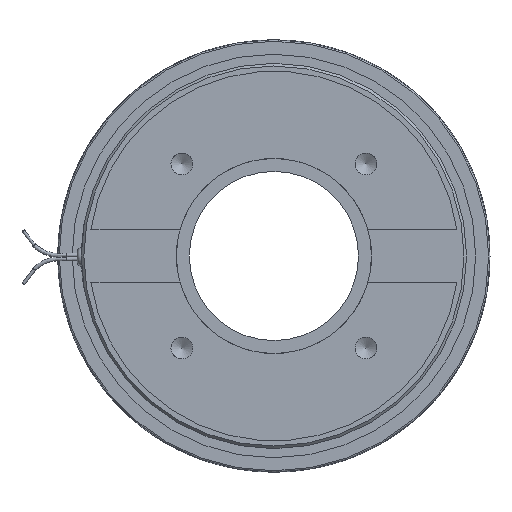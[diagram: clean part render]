
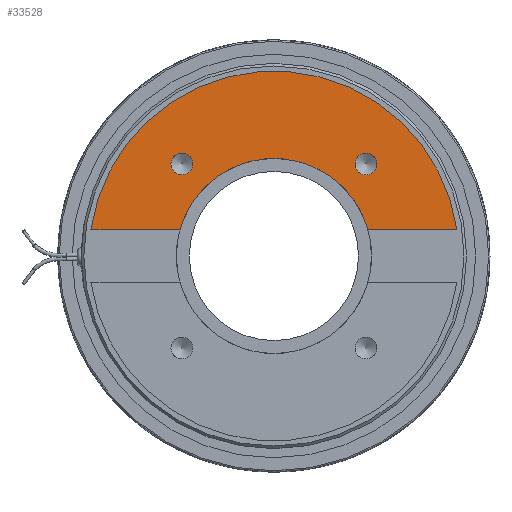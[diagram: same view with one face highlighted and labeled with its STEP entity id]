
A CAD part, left-side view. The second image highlights one B-rep face of the part: STEP entity #33528.
In plain terms, the highlighted planar face has unit normal (-1, 0, 0).
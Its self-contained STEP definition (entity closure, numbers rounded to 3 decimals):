
#2133=FACE_BOUND('',#6443,.T.);
#2134=FACE_BOUND('',#6444,.T.);
#3065=PLANE('',#36727);
#4697=FACE_OUTER_BOUND('',#6442,.T.);
#6442=EDGE_LOOP('',(#25449,#25450,#25451,#25452));
#6443=EDGE_LOOP('',(#25453));
#6444=EDGE_LOOP('',(#25454));
#7835=CIRCLE('',#36721,37.5);
#7837=CIRCLE('',#36724,71.);
#7839=CIRCLE('',#36728,4.188);
#7840=CIRCLE('',#36729,4.188);
#9321=LINE('',#55989,#11227);
#9323=LINE('',#55995,#11229);
#11227=VECTOR('',#44605,10.);
#11229=VECTOR('',#44609,10.);
#13820=VERTEX_POINT('',#55983);
#13822=VERTEX_POINT('',#55987);
#13823=VERTEX_POINT('',#55991);
#13825=VERTEX_POINT('',#55994);
#13830=VERTEX_POINT('',#56019);
#13831=VERTEX_POINT('',#56021);
#17988=EDGE_CURVE('',#13820,#13822,#9321,.T.);
#17990=EDGE_CURVE('',#13825,#13823,#9323,.T.);
#18001=EDGE_CURVE('',#13822,#13825,#7835,.T.);
#18003=EDGE_CURVE('',#13820,#13823,#7837,.T.);
#18005=EDGE_CURVE('',#13830,#13830,#7839,.T.);
#18006=EDGE_CURVE('',#13831,#13831,#7840,.T.);
#25449=ORIENTED_EDGE('',*,*,#17990,.T.);
#25450=ORIENTED_EDGE('',*,*,#18003,.F.);
#25451=ORIENTED_EDGE('',*,*,#17988,.T.);
#25452=ORIENTED_EDGE('',*,*,#18001,.T.);
#25453=ORIENTED_EDGE('',*,*,#18005,.T.);
#25454=ORIENTED_EDGE('',*,*,#18006,.T.);
#33528=ADVANCED_FACE('',(#4697,#2133,#2134),#3065,.T.);
#36721=AXIS2_PLACEMENT_3D('',#56012,#44631,#44632);
#36724=AXIS2_PLACEMENT_3D('',#56015,#44637,#44638);
#36727=AXIS2_PLACEMENT_3D('',#56018,#44643,#44644);
#36728=AXIS2_PLACEMENT_3D('',#56020,#44645,#44646);
#36729=AXIS2_PLACEMENT_3D('',#56022,#44647,#44648);
#44605=DIRECTION('',(0.,-1.,0.));
#44609=DIRECTION('',(0.,-1.,0.));
#44631=DIRECTION('center_axis',(1.,0.,0.));
#44632=DIRECTION('ref_axis',(0.,1.,0.));
#44637=DIRECTION('center_axis',(1.,0.,0.));
#44638=DIRECTION('ref_axis',(0.,1.,0.));
#44643=DIRECTION('center_axis',(-1.,0.,0.));
#44644=DIRECTION('ref_axis',(0.,0.,1.));
#44645=DIRECTION('center_axis',(1.,0.,0.));
#44646=DIRECTION('ref_axis',(0.,0.,1.));
#44647=DIRECTION('center_axis',(1.,0.,0.));
#44648=DIRECTION('ref_axis',(0.,0.,1.));
#55983=CARTESIAN_POINT('',(-23.5,70.292,10.));
#55987=CARTESIAN_POINT('',(-23.5,36.142,10.));
#55989=CARTESIAN_POINT('',(-23.5,72.146,10.));
#55991=CARTESIAN_POINT('',(-23.5,-70.292,10.));
#55994=CARTESIAN_POINT('',(-23.5,-36.142,10.));
#55995=CARTESIAN_POINT('',(-23.5,72.146,10.));
#56012=CARTESIAN_POINT('Origin',(-23.5,0.,0.));
#56015=CARTESIAN_POINT('Origin',(-23.5,0.,0.));
#56018=CARTESIAN_POINT('Origin',(-23.5,54.25,0.));
#56019=CARTESIAN_POINT('',(-23.5,35.355,31.167));
#56020=CARTESIAN_POINT('Origin',(-23.5,35.355,35.355));
#56021=CARTESIAN_POINT('',(-23.5,-35.355,31.167));
#56022=CARTESIAN_POINT('Origin',(-23.5,-35.355,35.355));
